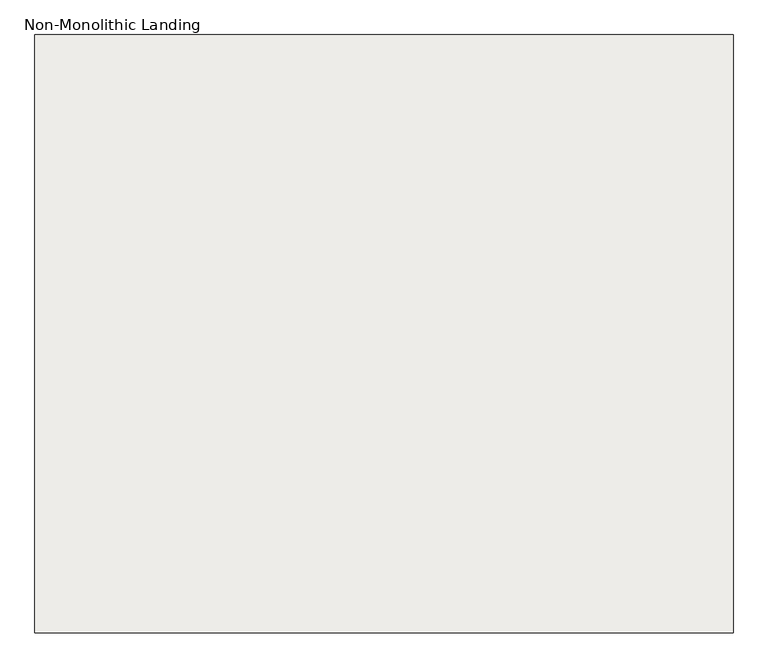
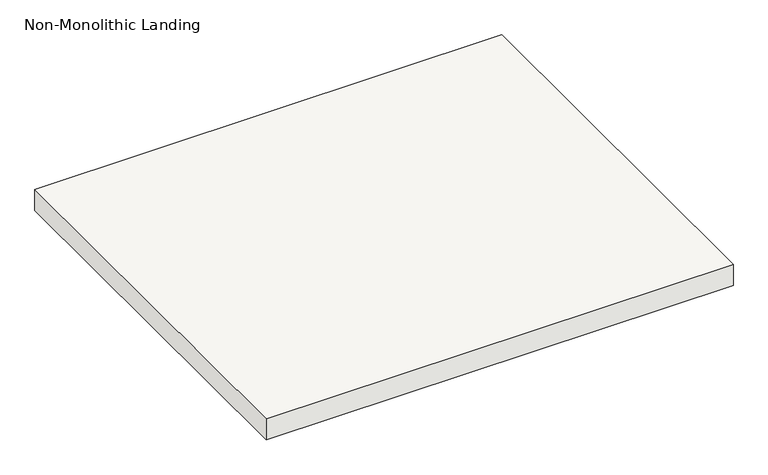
"""IFC4 building model written with IfcOpenShell, lengths in millimetres: slab geometry, Non-Monolithic Landing."""

from ifc_helpers import new_model, si_unit, frame, origin, place, context, project, spatial, polyline, outline, extrude, source, transform, mapped, element, save


def non_monolithic_landing_4331faeb(model_context):
    return source(origin(), model_context, "Body", "SweptSolid", [
        extrude(outline(polyline([(138611.0944894, -34537.0428514), (139677.8944894, -34537.0428514), (139677.8944894, -35451.4428514), (138611.0944894, -35451.4428514), (138611.0944894, -34537.0428514)])), frame((0.0, 0.0, 2195.0947368), z_axis=(0.0, 0.0, 1.0), x_axis=(1.0, 0.0, 0.0)), (0.0, 0.0, 1.0), 50.8),
    ])


if __name__ == "__main__":
    model = new_model("IFC4")
    model_context = context("Model", 3, world=origin())
    ifc_project = project(units=[si_unit("LENGTHUNIT", "METRE", prefix="MILLI")], contexts=[model_context])
    site = spatial("IfcSite", under=ifc_project)
    building = spatial("IfcBuilding", under=site)
    placement = place(None, origin())
    non_monolithic_landing_shape = non_monolithic_landing_4331faeb(model_context)
    element("IfcSlab", 1, ObjectType="Non-Monolithic Landing", at=placement, inside=building, context=model_context, shape_type="MappedRepresentation", body=[
        mapped(non_monolithic_landing_shape, transform((0.0, 0.0, 0.0), x_axis=(1.0, 0.0, 0.0), y_axis=(0.0, 1.0, 0.0), z_axis=(0.0, 0.0, 1.0))),
    ])
    save(model, "model.ifc")
